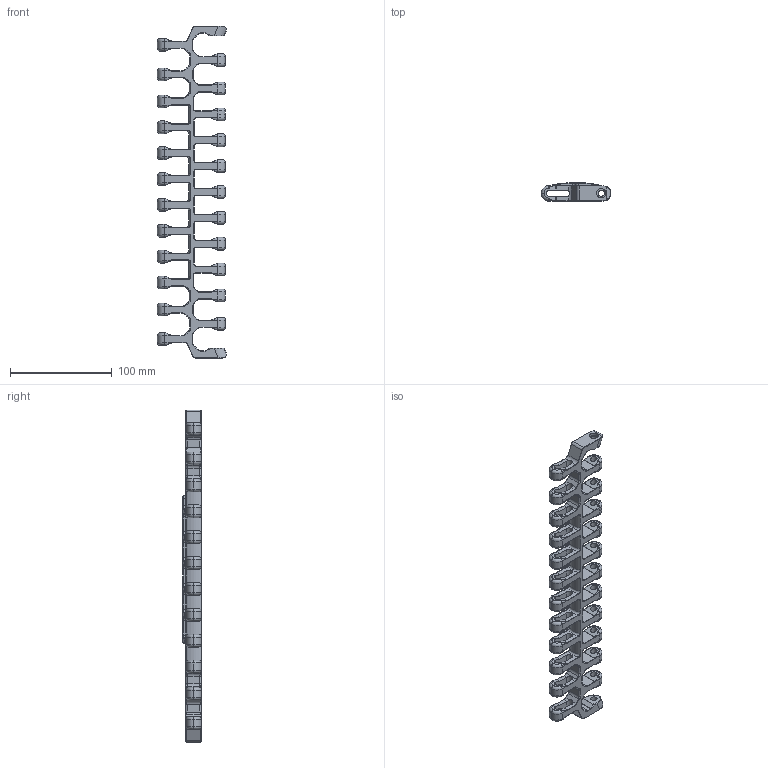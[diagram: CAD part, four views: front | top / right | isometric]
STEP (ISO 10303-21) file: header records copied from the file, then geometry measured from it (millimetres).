
FILE_DESCRIPTION((''),'2;1');
FILE_NAME('K120','2011-09-20T',('JAS'),(''),'PRO/ENGINEER BY PARAMETRIC TECHNOLOGY CORPORATION, 2011080','PRO/ENGINEER BY PARAMETRIC TECHNOLOGY CORPORATION, 2011080','');
FILE_SCHEMA(('AUTOMOTIVE_DESIGN { 1 0 10303 214 1 1 1 1 }'));
Products named in the file (1): K120
Bounding box: 67.95 x 18 x 325.9 mm (x, y, z)
Volume: 105085.8 mm3; surface area: 51906.1 mm2
Topology: 1 solids, 1 shells, 1881 faces, 4741 edges, 2815 vertices
Faces by surface type: cylinder 867, plane 363, torus 346, bspline 290, extrusion 11, sphere 4
Entity records: 113418 total; most frequent: CARTESIAN_POINT 52312, ORIENTED_EDGE 9474, DIRECTION 9091, PRESENTATION_STYLE_ASSIGNMENT 5134, STYLED_ITEM 4749, CURVE_STYLE 4748, EDGE_CURVE 4737, AXIS2_PLACEMENT_3D 3592
